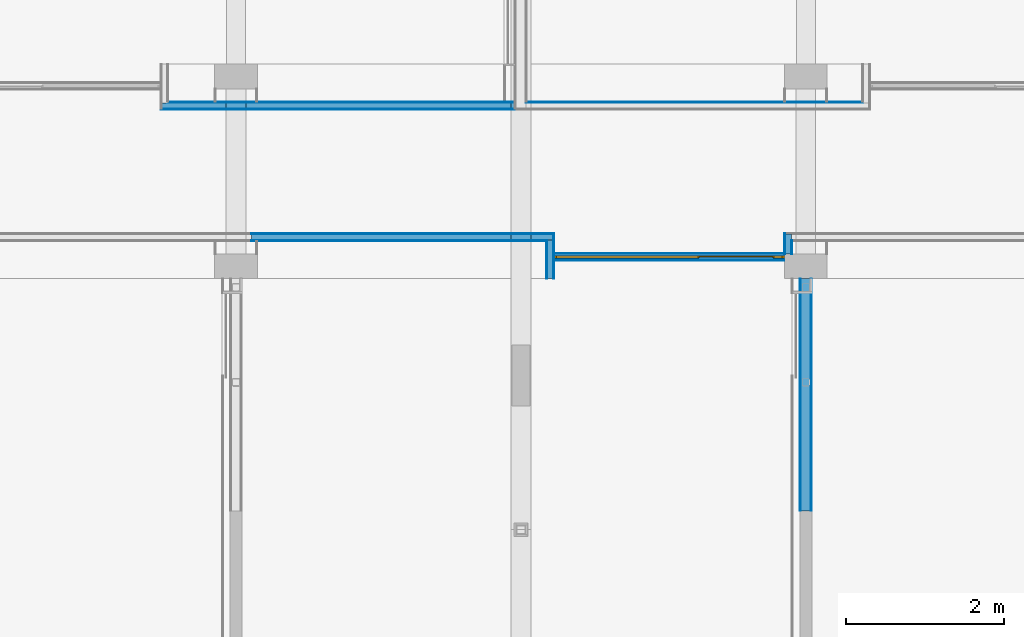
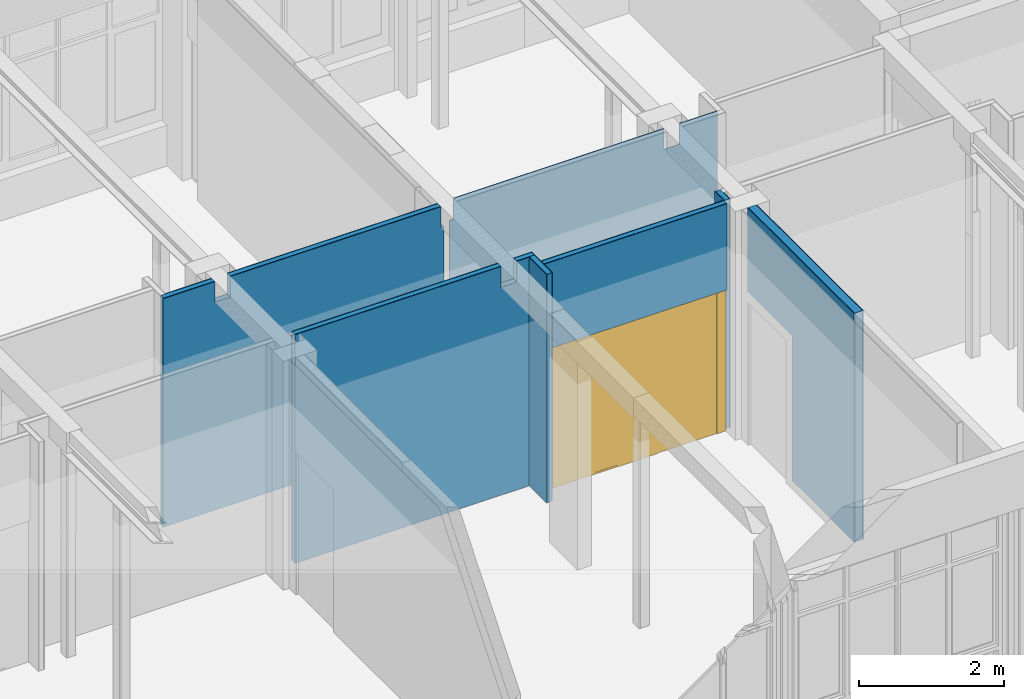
# One storey, part 110 of 135: 19 building element parts, 1 door, 2 openings, 7 elements without a shape of their own.
"""IFC2X3 building model written with IfcOpenShell, lengths in millimetres."""

from ifc_helpers import new_model, entity, si_unit, converted_unit, derived_unit, money_unit, direction, frame, origin_with_axes, place, context, subcontext, project, spatial, open_shell, faceted_brep, surface_model, material, type_object, element, fill, aggregate, save


model = new_model("IFC2X3")

# Units and contexts
model_context = context("Model", 3, precision=0.01, world=origin_with_axes(), true_north=direction((0.0, 1.0)))
body_context = subcontext(model_context, "Body", "Model", "MODEL_VIEW")
ifc_project = project(units=[si_unit("LENGTHUNIT", "METRE", prefix="MILLI"), si_unit("AREAUNIT", "SQUARE_METRE"), si_unit("VOLUMEUNIT", "CUBIC_METRE"), converted_unit("PLANEANGLEUNIT", "DEGREE", entity("IfcPlaneAngleMeasure", 0.0174532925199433), si_unit("PLANEANGLEUNIT", "RADIAN"), dimensions=[0, 0, 0, 0, 0, 0, 0]), money_unit("EUR"), converted_unit("TIMEUNIT", "Year", entity("IfcTimeMeasure", 31557600.0), si_unit("TIMEUNIT", "SECOND"), dimensions=[0, 0, 1, 0, 0, 0, 0]), si_unit("MASSUNIT", "GRAM", prefix="KILO"), si_unit("THERMODYNAMICTEMPERATUREUNIT", "DEGREE_CELSIUS"), si_unit("LUMINOUSINTENSITYUNIT", "LUMEN"), si_unit("ENERGYUNIT", "JOULE", prefix="MEGA"), derived_unit("THERMALCONDUCTANCEUNIT", [(si_unit("POWERUNIT", "WATT"), 1), (si_unit("LENGTHUNIT", "METRE"), -1), (si_unit("THERMODYNAMICTEMPERATUREUNIT", "KELVIN"), -1)]), derived_unit("SPECIFICHEATCAPACITYUNIT", [(si_unit("ENERGYUNIT", "JOULE"), 1), (si_unit("MASSUNIT", "GRAM", prefix="KILO"), -1), (si_unit("THERMODYNAMICTEMPERATUREUNIT", "KELVIN"), -1)]), derived_unit("MASSDENSITYUNIT", [(si_unit("MASSUNIT", "GRAM", prefix="KILO"), 1), (si_unit("VOLUMEUNIT", "CUBIC_METRE"), -1)])], contexts=[model_context])

# Site, building, storey
site_placement = place(None, origin_with_axes())
site = spatial("IfcSite", under=ifc_project, at=site_placement, Name="Site", CompositionType="ELEMENT")
building_placement = place(site_placement, origin_with_axes())
building = spatial("IfcBuilding", under=site, at=building_placement, Name="Naam gebouw", CompositionType="ELEMENT")
storey_placement = place(building_placement, origin_with_axes())
storey = spatial("IfcBuildingStorey", under=building, at=storey_placement, Name="Begane grond N", CompositionType="ELEMENT", Elevation=0.0)

# Door
door_style = type_object("IfcDoorStyle", Name="D1 zl2 27", ConstructionType="NOTDEFINED", OperationType="USERDEFINED", ParameterTakesPrecedence=False, Sizeable=False)
wall_7_placement = place(storey_placement, frame((47220.00000000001, 18145.9124251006, 0.0), z_axis=(0.0, 0.0, 1.0), x_axis=(1.0, 0.0, 0.0)))
opening_2_placement = place(wall_7_placement, frame((1454.999999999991, 0.0, 0.0), z_axis=(0.0, 0.0, 1.0), x_axis=(1.0, 0.0, 0.0)))
door_placement = place(opening_2_placement, frame((1454.999999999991, 0.0, 0.0), z_axis=(0.0, 0.0, 1.0), x_axis=(-1.0, 0.0, 0.0)))
door = element("IfcDoor", 1, at=door_placement, inside=storey, type_object=door_style, Name="_Merk-x", ObjectType="DOOR", OverallHeight=2400.0, OverallWidth=2910.0, context=body_context, shape_type="SurfaceModel", body=[
    faceted_brep([(2909.999999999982, 10.00000000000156, 0.0), (2909.999999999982, -9.99999999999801, 0.0), (2879.999999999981, -9.99999999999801, 0.0), (2879.999999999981, 10.00000000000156, 0.0), (2909.999999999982, 10.00000000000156, 2370.0), (2909.999999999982, -9.99999999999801, 2370.0), (2879.999999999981, -9.99999999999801, 2370.0), (2879.999999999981, -9.99999999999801, 30.0), (2879.999999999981, 10.00000000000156, 30.0), (2879.999999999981, 10.00000000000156, 2370.0)], [[[0, 1, 2, 3]], [[4, 5, 1, 0]], [[1, 5, 6, 7, 2]], [[3, 2, 7, 8]], [[0, 3, 8, 9, 4]], [[9, 6, 5, 4]], [[8, 7, 6, 9]]]),
    faceted_brep([(1060.000000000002, -8.999999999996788, 0.0), (1060.000000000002, -9.99999999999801, 0.0), (1060.000000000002, -9.99999999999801, 2370.0), (1060.000000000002, -8.999999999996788, 2370.0), (1077.000000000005, -8.999999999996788, 0.0), (1077.000000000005, 10.00000000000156, 0.0), (1090.000000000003, 10.00000000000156, 0.0), (1090.000000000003, -9.99999999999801, 0.0), (1090.000000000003, -9.99999999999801, 30.00000000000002), (1090.000000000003, -9.99999999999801, 2370.0), (1077.000000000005, -8.999999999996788, 2370.0), (1090.000000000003, 10.00000000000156, 2370.0), (1077.000000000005, 10.00000000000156, 2370.0), (1090.000000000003, 10.00000000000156, 30.00000000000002)], [[[0, 1, 2, 3]], [[4, 5, 6, 7, 1, 0]], [[7, 8, 9, 2, 1]], [[10, 3, 2, 9, 11, 12]], [[10, 4, 0, 3]], [[12, 5, 4, 10]], [[12, 11, 13, 6, 5]], [[6, 13, 8, 7]], [[13, 11, 9, 8]]]),
    faceted_brep([(2879.999999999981, 10.00000000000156, 30.0), (2879.999999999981, -9.99999999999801, 30.0), (2879.999999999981, -9.99999999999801, 0.0), (2879.999999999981, 10.00000000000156, 0.0), (1090.000000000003, 10.00000000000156, 30.0), (1090.000000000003, -9.99999999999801, 30.0), (1090.000000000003, -9.99999999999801, 0.0), (1090.000000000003, 10.00000000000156, 0.0)], [[[0, 1, 2, 3]], [[4, 5, 1, 0]], [[1, 5, 6, 2]], [[3, 2, 6, 7]], [[0, 3, 7, 4]], [[7, 6, 5, 4]]]),
    faceted_brep([(0.0, 10.00000000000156, 0.0), (0.0, -9.99999999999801, 0.0), (0.0, -9.99999999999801, 2370.0), (0.0, 10.00000000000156, 2370.0), (30.00000000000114, 10.00000000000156, 0.0), (30.00000000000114, -9.99999999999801, 0.0), (30.00000000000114, -9.99999999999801, 30.0), (30.00000000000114, -9.99999999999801, 2370.0), (30.00000000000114, 10.00000000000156, 2370.0), (30.00000000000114, 10.00000000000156, 30.0)], [[[0, 1, 2, 3]], [[4, 5, 1, 0]], [[1, 5, 6, 7, 2]], [[3, 2, 7, 8]], [[0, 3, 8, 9, 4]], [[9, 6, 5, 4]], [[8, 7, 6, 9]]]),
    faceted_brep([(143.0000000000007, -8.999999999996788, 2370.0), (143.0000000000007, 10.00000000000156, 2370.0), (130.0000000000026, 10.00000000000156, 2370.0), (130.0000000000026, -9.99999999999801, 2370.0), (160.0000000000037, -9.99999999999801, 2370.0), (160.0000000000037, -8.999999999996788, 2370.0), (143.0000000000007, -8.999999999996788, 0.0), (143.0000000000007, 10.00000000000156, 0.0), (130.0000000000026, 10.00000000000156, 0.0), (130.0000000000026, 10.00000000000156, 30.00000000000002), (130.0000000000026, -9.99999999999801, 30.00000000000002), (160.0000000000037, -9.99999999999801, 0.0), (130.0000000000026, -9.99999999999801, 0.0), (160.0000000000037, -8.999999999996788, 0.0)], [[[0, 1, 2, 3, 4, 5]], [[0, 6, 7, 1]], [[7, 8, 9, 2, 1]], [[2, 9, 10, 3]], [[11, 4, 3, 10, 12]], [[5, 4, 11, 13]], [[5, 13, 6, 0]], [[6, 13, 11, 12, 8, 7]], [[9, 8, 12, 10]]]),
    faceted_brep([(130.0000000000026, 10.00000000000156, 30.0), (130.0000000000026, -9.99999999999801, 30.0), (130.0000000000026, -9.99999999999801, 0.0), (130.0000000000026, 10.00000000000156, 0.0), (30.00000000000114, 10.00000000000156, 30.0), (30.00000000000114, -9.99999999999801, 30.0), (30.00000000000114, -9.99999999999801, 0.0), (30.00000000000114, 10.00000000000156, 0.0)], [[[0, 1, 2, 3]], [[4, 5, 1, 0]], [[1, 5, 6, 2]], [[3, 2, 6, 7]], [[0, 3, 7, 4]], [[7, 6, 5, 4]]]),
    faceted_brep([(1077.000000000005, 10.00000000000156, 2387.0), (143.0000000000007, 10.00000000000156, 2387.0), (143.0000000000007, 10.00000000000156, 2370.0), (130.0000000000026, 10.00000000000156, 2370.0), (30.00000000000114, 10.00000000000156, 2370.0), (0.0, 10.00000000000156, 2370.0), (0.0, 10.00000000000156, 2400.0), (2909.999999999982, 10.00000000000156, 2400.0), (2909.999999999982, 10.00000000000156, 2370.0), (2879.999999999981, 10.00000000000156, 2370.0), (1090.000000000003, 10.00000000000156, 2370.0), (1077.000000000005, 10.00000000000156, 2370.0), (1077.000000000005, -8.999999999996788, 2387.0), (143.0000000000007, -8.999999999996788, 2387.0), (143.0000000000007, -8.999999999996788, 2370.0), (160.0000000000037, -8.999999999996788, 2370.0), (160.0000000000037, -9.99999999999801, 2370.0), (130.0000000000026, -9.99999999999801, 2370.0), (30.00000000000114, -9.99999999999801, 2370.0), (0.0, -9.99999999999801, 2370.0), (0.0, -9.99999999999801, 2400.0), (2909.999999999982, -9.99999999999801, 2400.0), (2909.999999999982, -9.99999999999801, 2370.0), (2879.999999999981, -9.99999999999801, 2370.0), (1090.000000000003, -9.99999999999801, 2370.0), (1077.000000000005, -8.999999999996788, 2370.0), (1060.000000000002, -9.99999999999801, 2370.0)], [[[0, 1, 2, 3, 4, 5, 6, 7, 8, 9, 10, 11]], [[0, 12, 13, 1]], [[1, 13, 14, 2]], [[14, 15, 16, 17, 18, 4, 3, 2]], [[5, 4, 18, 19]], [[6, 5, 19, 20]], [[7, 6, 20, 21]], [[8, 7, 21, 22]], [[9, 8, 22, 23]], [[10, 9, 23, 24]], [[25, 11, 10, 24, 26, 16, 15]], [[11, 25, 12, 0]], [[14, 13, 12, 25, 15]], [[18, 17, 16, 26, 24, 23, 22, 21, 20, 19]]]),
    faceted_brep([(143.0000000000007, 1.000000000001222, 0.0), (1077.000000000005, 1.000000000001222, 0.0), (1077.000000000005, -8.999999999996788, 0.0), (143.0000000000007, -8.999999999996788, 0.0), (143.0000000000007, 1.000000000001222, 2387.0), (1077.000000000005, 1.000000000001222, 2387.0), (1077.000000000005, -9.000000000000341, 2387.0), (143.0000000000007, -9.000000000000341, 2387.0)], [[[0, 1, 2, 3]], [[0, 4, 5, 1]], [[1, 5, 6, 2]], [[3, 2, 6, 7]], [[4, 0, 3, 7]], [[5, 4, 7, 6]]]),
    surface_model("IfcShellBasedSurfaceModel", [(2879.999999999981, 9.000000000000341, 30.0), (1090.000000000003, 9.000000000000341, 30.0), (1090.000000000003, 9.000000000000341, 2370.0), (2879.999999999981, 9.000000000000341, 2370.0)], [open_shell([[[0, 1, 2, 3]]])]),
    surface_model("IfcShellBasedSurfaceModel", [(2879.999999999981, 1.000000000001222, 30.0), (2879.999999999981, 1.000000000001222, 2370.0), (1090.000000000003, 1.000000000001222, 2370.0), (1090.000000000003, 1.000000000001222, 30.0)], [open_shell([[[0, 1, 2, 3]]])]),
    surface_model("IfcShellBasedSurfaceModel", [(130.0000000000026, 9.000000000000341, 30.0), (30.00000000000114, 9.000000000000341, 30.0), (30.00000000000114, 9.000000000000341, 2370.0), (130.0000000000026, 9.000000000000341, 2370.0)], [open_shell([[[0, 1, 2, 3]]])]),
    surface_model("IfcShellBasedSurfaceModel", [(130.0000000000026, 1.000000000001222, 30.0), (130.0000000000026, 1.000000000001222, 2370.0), (30.00000000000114, 1.000000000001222, 2370.0), (30.00000000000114, 1.000000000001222, 30.0)], [open_shell([[[0, 1, 2, 3]]])]),
])

# Wall, opening, building element parts
wall_type_1 = type_object("IfcWallType", Name="Metalstud iso 150 150", PredefinedType="NOTDEFINED")
wall_1_placement = place(storey_placement, frame((50399.99999999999, 17870.91242510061, 0.0), z_axis=(0.0, 0.0, 1.0), x_axis=(0.0, -1.0, 0.0)))
wall_1 = element("IfcWall", 2, at=wall_1_placement, inside=storey, type_object=wall_type_1, Name="_Wand-x")
opening_1_placement = place(wall_1_placement, frame((612.5000000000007, 0.0, 0.0), z_axis=(0.0, 0.0, 1.0), x_axis=(1.0, 0.0, 0.0)))
element("IfcOpeningElement", 3, at=opening_1_placement, cuts=wall_1, Name="_", context=body_context, shape_type="Brep", body=[
    faceted_brep([(-612.5000000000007, -76.00000000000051, 2440.0), (-612.5000000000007, -76.00000000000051, 0.0), (612.5000000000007, -76.00000000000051, 0.0), (612.5000000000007, -76.00000000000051, 2440.0), (-612.5000000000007, 76.00000000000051, 2440.0), (-612.5000000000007, 76.00000000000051, 0.0), (612.5000000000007, 76.00000000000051, 0.0), (612.5000000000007, 76.00000000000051, 2440.0)], [[[0, 1, 2, 3]], [[4, 5, 1, 0]], [[5, 6, 2, 1]], [[6, 7, 3, 2]], [[7, 4, 0, 3]], [[6, 5, 4, 7]]]),
])
ifc_material_1 = material(Name="Gipsplaat")
building_element_part_1_placement = place(wall_1_placement, origin_with_axes())
building_element_part_1 = element("IfcBuildingElementPart", 4, at=building_element_part_1_placement, material=ifc_material_1, Name="Gipsplaat", context=body_context, shape_type="Brep", body=[
    faceted_brep([(160.0000000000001, 75.00000000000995, 2440.0), (0.0, 75.00000000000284, 2440.0), (0.0, 75.00000000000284, 3850.0), (2934.000000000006, 75.00000000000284, 3850.0), (2934.000000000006, 75.00000000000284, 0.0), (1225.000000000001, 75.00000000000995, 0.0), (1225.000000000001, 75.00000000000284, 2440.0), (184.9999999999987, 75.00000000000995, 2440.0), (0.0, 62.5, 2440.0), (160.0000000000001, 62.5, 2440.0), (0.0, 62.5, 3850.0), (2934.000000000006, 62.5, 3850.0), (2934.000000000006, 62.5, 0.0), (1225.000000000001, 62.5, 0.0), (1225.000000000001, 62.5, 2440.0), (184.9999999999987, 62.5, 2440.0)], [[[0, 1, 2, 3, 4, 5, 6, 7]], [[8, 1, 0, 9]], [[1, 8, 10, 2]], [[2, 10, 11, 3]], [[4, 3, 11, 12]], [[13, 5, 4, 12]], [[6, 5, 13, 14]], [[15, 7, 6, 14]], [[9, 0, 7, 15]], [[8, 9, 15, 14, 13, 12, 11, 10]]]),
])
ifc_material_2 = material(Name="Isolatie - Steenwol LSW")
building_element_part_2_placement = place(wall_1_placement, origin_with_axes())
building_element_part_2 = element("IfcBuildingElementPart", 5, at=building_element_part_2_placement, material=ifc_material_2, Name="Isolatie - Steenwol LSW", context=body_context, shape_type="Brep", body=[
    faceted_brep([(160.0000000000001, 62.5, 2440.0), (0.0, 62.5, 2440.0), (0.0, 62.5, 3850.0), (2934.000000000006, 62.5, 3850.0), (2934.000000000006, 62.5, 0.0), (1225.000000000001, 62.5, 0.0), (1225.000000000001, 62.5, 2440.0), (184.9999999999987, 62.5, 2440.0), (0.0, -62.5, 2440.0), (160.0000000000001, -62.5, 2440.0), (0.0, -62.5, 3850.0), (2934.000000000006, -62.5, 3850.0), (2934.000000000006, -62.5, 0.0), (1225.000000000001, -62.5, 0.0), (1225.000000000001, -62.5, 2440.0), (184.9999999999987, -62.5, 2440.0)], [[[0, 1, 2, 3, 4, 5, 6, 7]], [[8, 1, 0, 9]], [[1, 8, 10, 2]], [[2, 10, 11, 3]], [[4, 3, 11, 12]], [[13, 5, 4, 12]], [[6, 5, 13, 14]], [[15, 7, 6, 14]], [[9, 0, 7, 15]], [[8, 9, 15, 14, 13, 12, 11, 10]]]),
])
building_element_part_3_placement = place(wall_1_placement, origin_with_axes())
building_element_part_3 = element("IfcBuildingElementPart", 6, at=building_element_part_3_placement, material=ifc_material_1, Name="Gipsplaat", context=body_context, shape_type="Brep", body=[
    faceted_brep([(160.0000000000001, -62.5, 2440.0), (0.0, -62.5, 2440.0), (0.0, -62.5, 3850.0), (2934.000000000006, -62.5, 3850.0), (2934.000000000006, -62.5, 0.0), (1225.000000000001, -62.5, 0.0), (1225.000000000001, -62.5, 2440.0), (184.9999999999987, -62.5, 2440.0), (0.0, -75.00000000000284, 2440.0), (160.0000000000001, -75.00000000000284, 2440.0), (0.0, -75.00000000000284, 3850.0), (2934.000000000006, -75.00000000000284, 3850.0), (2934.000000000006, -75.00000000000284, 0.0), (1225.000000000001, -75.00000000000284, 0.0), (1225.000000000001, -75.00000000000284, 2440.0), (184.9999999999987, -75.00000000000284, 2440.0)], [[[0, 1, 2, 3, 4, 5, 6, 7]], [[8, 1, 0, 9]], [[1, 8, 10, 2]], [[2, 10, 11, 3]], [[4, 3, 11, 12]], [[13, 5, 4, 12]], [[6, 5, 13, 14]], [[15, 7, 6, 14]], [[9, 0, 7, 15]], [[8, 9, 15, 14, 13, 12, 11, 10]]]),
])
aggregate(wall_1, [building_element_part_1, building_element_part_2, building_element_part_3])

# Wall, building element parts
wall_type_2 = type_object("IfcWallType", Name="Metalstud iso 100 100", PredefinedType="NOTDEFINED")
wall_2_placement = place(storey_placement, frame((46724.99999168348, 20105.91242510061, 0.0), z_axis=(0.0, 0.0, 1.0), x_axis=(-1.0, 0.0, 0.0)))
wall_2 = element("IfcWall", 7, at=wall_2_placement, inside=storey, type_object=wall_type_2, Name="_Wand-x")
building_element_part_4_placement = place(wall_2_placement, origin_with_axes())
building_element_part_4 = element("IfcBuildingElementPart", 8, at=building_element_part_4_placement, material=ifc_material_1, Name="Gipsplaat", context=body_context, shape_type="Brep", body=[
    faceted_brep([(3649.999991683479, 87.49999999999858, 3499.999996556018), (3399.999991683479, 87.49999999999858, 3499.999996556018), (3399.999991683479, 87.49999999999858, 3850.0), (49.99999168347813, 87.49999999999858, 3850.000195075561), (49.99999168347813, 87.49999999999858, 3500.0), (0.0, 87.49999999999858, 3500.0), (0.0, 87.49999999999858, 0.0), (4477.499991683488, 87.49999999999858, 0.0), (4477.499991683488, 87.49999999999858, 3850.0), (3649.999991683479, 87.49999999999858, 3850.0), (3649.999991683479, 100.0000000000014, 3499.999996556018), (3399.999991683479, 100.0000000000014, 3499.999996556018), (3399.999991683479, 100.0000000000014, 3850.0), (49.99999168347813, 100.0000000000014, 3850.000195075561), (49.99999168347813, 100.0000000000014, 3500.0), (0.0, 100.0000000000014, 3500.0), (0.0, 100.0000000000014, 0.0), (4477.499991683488, 100.0000000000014, 0.0), (4477.499991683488, 100.0000000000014, 3850.0), (3649.999991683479, 100.0000000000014, 3850.0)], [[[0, 1, 2, 3, 4, 5, 6, 7, 8, 9]], [[1, 0, 10, 11]], [[12, 2, 1, 11]], [[2, 12, 13, 3]], [[4, 3, 13, 14]], [[15, 5, 4, 14]], [[5, 15, 16, 6]], [[16, 17, 7, 6]], [[17, 18, 8, 7]], [[19, 9, 8, 18]], [[0, 9, 19, 10]], [[10, 19, 18, 17, 16, 15, 14, 13, 12, 11]]]),
])
building_element_part_5_placement = place(wall_2_placement, origin_with_axes())
building_element_part_5 = element("IfcBuildingElementPart", 9, at=building_element_part_5_placement, material=ifc_material_1, Name="Gipsplaat", context=body_context, shape_type="Brep", body=[
    faceted_brep([(3649.999991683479, 0.0, 3499.999996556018), (3399.999991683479, 0.0, 3499.999996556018), (3399.999991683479, 0.0, 3850.0), (49.99999168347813, 0.0, 3850.000195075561), (49.99999168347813, 0.0, 3500.0), (0.0, 0.0, 3500.0), (0.0, 0.0, 0.0), (4389.999991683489, 0.0, 0.0), (4389.999991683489, 0.0, 3850.0), (3649.999991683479, 0.0, 3850.0), (3649.999991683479, 12.49999999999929, 3499.999996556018), (3399.999991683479, 12.49999999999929, 3499.999996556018), (3399.999991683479, 12.49999999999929, 3850.0), (49.99999168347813, 12.49999999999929, 3850.000195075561), (49.99999168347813, 12.49999999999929, 3500.0), (0.0, 12.49999999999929, 3500.0), (0.0, 12.49999999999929, 0.0), (4389.999991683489, 12.49999999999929, 0.0), (4389.999991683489, 12.49999999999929, 3850.0), (3649.999991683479, 12.49999999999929, 3850.0)], [[[0, 1, 2, 3, 4, 5, 6, 7, 8, 9]], [[1, 0, 10, 11]], [[12, 2, 1, 11]], [[2, 12, 13, 3]], [[4, 3, 13, 14]], [[15, 5, 4, 14]], [[5, 15, 16, 6]], [[16, 17, 7, 6]], [[17, 18, 8, 7]], [[19, 9, 8, 18]], [[0, 9, 19, 10]], [[10, 19, 18, 17, 16, 15, 14, 13, 12, 11]]]),
])

# Wall, building element part
wall_3_placement = place(storey_placement, frame((46800.00000000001, 20105.91242510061, 0.0), z_axis=(0.0, 0.0, 1.0), x_axis=(1.0, 0.0, 0.0)))
wall_3 = element("IfcWall", 10, at=wall_3_placement, inside=storey, type_object=wall_type_2, Name="_Wand-x")
building_element_part_6_placement = place(wall_3_placement, origin_with_axes())
building_element_part_6 = element("IfcBuildingElementPart", 11, at=building_element_part_6_placement, material=ifc_material_1, Name="Gipsplaat", context=body_context, shape_type="Brep", body=[
    faceted_brep([(3474.999999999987, 0.0, 3499.999996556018), (3724.999999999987, 0.0, 3499.999996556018), (3724.999999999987, 0.0, 3850.0), (4327.500000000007, 0.0, 3850.0), (4327.500000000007, 0.0, 0.0), (62.5, 0.0, 0.0), (62.5, 0.0, 3500.0), (124.9999999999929, 0.0, 3500.0), (124.9999999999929, 0.0, 3850.000195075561), (3474.999999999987, 0.0, 3850.0), (3474.999999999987, -12.49999999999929, 3499.999996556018), (3724.999999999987, -12.49999999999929, 3499.999996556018), (3724.999999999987, -12.49999999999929, 3850.0), (4327.500000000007, -12.49999999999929, 3850.0), (4327.500000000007, -12.49999999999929, 0.0), (62.5, -12.49999999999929, 0.0), (62.5, -12.49999999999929, 3500.0), (124.9999999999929, -12.49999999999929, 3500.0), (124.9999999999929, -12.49999999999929, 3850.000195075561), (3474.999999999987, -12.49999999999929, 3850.0)], [[[0, 1, 2, 3, 4, 5, 6, 7, 8, 9]], [[1, 0, 10, 11]], [[12, 2, 1, 11]], [[2, 12, 13, 3]], [[4, 3, 13, 14]], [[5, 4, 14, 15]], [[16, 6, 5, 15]], [[7, 6, 16, 17]], [[18, 8, 7, 17]], [[19, 9, 8, 18]], [[0, 9, 19, 10]], [[10, 19, 18, 17, 16, 15, 14, 13, 12, 11]]]),
])
aggregate(wall_3, [building_element_part_6])

# Building element part
building_element_part_7_placement = place(wall_2_placement, origin_with_axes())
building_element_part_7 = element("IfcBuildingElementPart", 12, at=building_element_part_7_placement, material=ifc_material_2, Name="Isolatie - Steenwol LSW", context=body_context, shape_type="Brep", body=[
    faceted_brep([(3649.999991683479, 12.49999999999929, 3499.999996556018), (3399.999991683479, 12.49999999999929, 3499.999996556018), (3399.999991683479, 12.49999999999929, 3850.0), (49.99999168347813, 12.49999999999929, 3850.000195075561), (49.99999168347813, 12.49999999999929, 3500.0), (0.0, 12.49999999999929, 3500.0), (0.0, 12.49999999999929, 0.0), (4464.999991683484, 12.49999999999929, 0.0), (4464.999991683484, 12.49999999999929, 3850.0), (3649.999991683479, 12.49999999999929, 3850.0), (3649.999991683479, 87.49999999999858, 3499.999996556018), (3399.999991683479, 87.49999999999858, 3499.999996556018), (3399.999991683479, 87.49999999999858, 3850.0), (49.99999168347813, 87.49999999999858, 3850.000195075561), (49.99999168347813, 87.49999999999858, 3500.0), (0.0, 87.49999999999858, 3500.0), (0.0, 87.49999999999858, 0.0), (4464.999991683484, 87.49999999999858, 0.0), (4464.999991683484, 87.49999999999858, 3850.0), (3649.999991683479, 87.49999999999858, 3850.0)], [[[0, 1, 2, 3, 4, 5, 6, 7, 8, 9]], [[1, 0, 10, 11]], [[12, 2, 1, 11]], [[2, 12, 13, 3]], [[4, 3, 13, 14]], [[15, 5, 4, 14]], [[5, 15, 16, 6]], [[16, 17, 7, 6]], [[17, 18, 8, 7]], [[19, 9, 8, 18]], [[0, 9, 19, 10]], [[10, 19, 18, 17, 16, 15, 14, 13, 12, 11]]]),
])

aggregate(wall_2, [building_element_part_4, building_element_part_5, building_element_part_7])

# Wall, building element parts
wall_4_placement = place(storey_placement, frame((50229.99999999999, 17870.91242510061, 0.0), z_axis=(0.0, 0.0, 1.0), x_axis=(0.0, 1.0, 0.0)))
wall_4 = element("IfcWall", 13, at=wall_4_placement, inside=storey, type_object=wall_type_2, Name="_Wand-x")
building_element_part_8_placement = place(wall_4_placement, origin_with_axes())
building_element_part_8 = element("IfcBuildingElementPart", 14, at=building_element_part_8_placement, material=ifc_material_1, Name="Gipsplaat", context=body_context, shape_type="Brep", body=[
    faceted_brep([(310.0000000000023, 100.0000000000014, 3850.0), (310.0000000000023, 87.49999999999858, 3850.0), (574.9999999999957, 87.49999999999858, 3850.0), (574.9999999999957, 100.0000000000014, 3850.0), (310.0000000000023, 87.49999999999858, 0.0), (310.0000000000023, 100.0000000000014, 0.0), (574.9999999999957, 87.49999999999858, 0.0), (574.9999999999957, 100.0000000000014, 0.0)], [[[0, 1, 2, 3]], [[4, 1, 0, 5]], [[1, 4, 6, 2]], [[7, 3, 2, 6]], [[5, 0, 3, 7]], [[4, 5, 7, 6]]]),
])
building_element_part_9_placement = place(wall_4_placement, origin_with_axes())
building_element_part_9 = element("IfcBuildingElementPart", 15, at=building_element_part_9_placement, material=ifc_material_2, Name="Isolatie - Steenwol LSW", context=body_context, shape_type="Brep", body=[
    faceted_brep([(310.0000000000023, 87.49999999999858, 3850.0), (310.0000000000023, 12.50000000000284, 3850.0), (562.499999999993, 12.50000000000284, 3850.0), (562.499999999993, 87.49999999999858, 3850.0), (310.0000000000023, 12.50000000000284, 0.0), (310.0000000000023, 87.49999999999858, 0.0), (562.499999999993, 12.50000000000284, 0.0), (562.499999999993, 87.49999999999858, 0.0)], [[[0, 1, 2, 3]], [[4, 1, 0, 5]], [[1, 4, 6, 2]], [[7, 3, 2, 6]], [[5, 0, 3, 7]], [[4, 5, 7, 6]]]),
])
building_element_part_10_placement = place(wall_4_placement, origin_with_axes())
building_element_part_10 = element("IfcBuildingElementPart", 16, at=building_element_part_10_placement, material=ifc_material_1, Name="Gipsplaat", context=body_context, shape_type="Brep", body=[
    faceted_brep([(310.0000000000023, 12.50000000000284, 3850.0), (310.0000000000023, 0.0, 3850.0), (487.4999999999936, 0.0, 3850.0), (487.4999999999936, 12.50000000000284, 3850.0), (310.0000000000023, 0.0, 0.0), (310.0000000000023, 12.50000000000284, 0.0), (487.4999999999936, 0.0, 0.0), (487.4999999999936, 12.50000000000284, 0.0)], [[[0, 1, 2, 3]], [[4, 1, 0, 5]], [[1, 4, 6, 2]], [[7, 3, 2, 6]], [[5, 0, 3, 7]], [[4, 5, 7, 6]]]),
])
aggregate(wall_4, [building_element_part_8, building_element_part_9, building_element_part_10])

wall_5_placement = place(storey_placement, frame((43395.0, 18345.9124251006, 0.0), z_axis=(0.0, 0.0, 1.0), x_axis=(1.0, 0.0, 0.0)))
wall_5 = element("IfcWall", 17, at=wall_5_placement, inside=storey, type_object=wall_type_2, Name="_Wand-x")
building_element_part_11_placement = place(wall_5_placement, origin_with_axes())
building_element_part_11 = element("IfcBuildingElementPart", 18, at=building_element_part_11_placement, material=ifc_material_1, Name="Gipsplaat", context=body_context, shape_type="Brep", body=[
    faceted_brep([(3280.000000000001, 100.000000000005, 3500.0), (3530.000000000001, 100.000000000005, 3500.0), (3530.000000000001, 100.000000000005, 3850.000195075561), (3825.000000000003, 100.000000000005, 3850.0), (3825.000000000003, 100.000000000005, 0.0), (0.0, 100.0000000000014, 0.0), (0.0, 100.0000000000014, 3850.0), (3280.000000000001, 100.000000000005, 3850.000195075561), (3280.000000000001, 87.50000000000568, 3500.0), (3530.000000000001, 87.50000000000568, 3500.0), (3530.000000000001, 87.50000000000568, 3850.000195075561), (3825.000000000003, 87.50000000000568, 3850.0), (3825.000000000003, 87.50000000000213, 0.0), (0.0, 87.49999999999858, 0.0), (0.0, 87.49999999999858, 3850.0), (3280.000000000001, 87.50000000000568, 3850.000195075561)], [[[0, 1, 2, 3, 4, 5, 6, 7]], [[1, 0, 8, 9]], [[10, 2, 1, 9]], [[2, 10, 11, 3]], [[4, 3, 11, 12]], [[5, 4, 12, 13]], [[13, 14, 6, 5]], [[15, 7, 6, 14]], [[0, 7, 15, 8]], [[8, 15, 14, 13, 12, 11, 10, 9]]]),
])
building_element_part_12_placement = place(wall_5_placement, origin_with_axes())
building_element_part_12 = element("IfcBuildingElementPart", 19, at=building_element_part_12_placement, material=ifc_material_2, Name="Isolatie - Steenwol LSW", context=body_context, shape_type="Brep", body=[
    faceted_brep([(3280.000000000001, 87.50000000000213, 3500.0), (3530.000000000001, 87.50000000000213, 3500.0), (3530.000000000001, 87.50000000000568, 3850.000195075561), (3812.5, 87.50000000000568, 3850.0), (3812.5, 87.50000000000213, 0.0), (0.0, 87.49999999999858, 0.0), (0.0, 87.49999999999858, 3850.0), (3280.000000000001, 87.50000000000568, 3850.000195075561), (3280.000000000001, 12.50000000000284, 3500.0), (3530.000000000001, 12.50000000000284, 3500.0), (3530.000000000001, 12.50000000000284, 3850.000195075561), (3812.5, 12.50000000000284, 3850.0), (3812.5, 12.50000000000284, 0.0), (0.0, 12.49999999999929, 0.0), (0.0, 12.49999999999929, 3850.0), (3280.000000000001, 12.50000000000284, 3850.000195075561)], [[[0, 1, 2, 3, 4, 5, 6, 7]], [[1, 0, 8, 9]], [[10, 2, 1, 9]], [[2, 10, 11, 3]], [[4, 3, 11, 12]], [[5, 4, 12, 13]], [[13, 14, 6, 5]], [[15, 7, 6, 14]], [[0, 7, 15, 8]], [[8, 15, 14, 13, 12, 11, 10, 9]]]),
])

# Wall, building element part
wall_6_placement = place(storey_placement, frame((47120.00000000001, 17870.91242510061, 0.0), z_axis=(0.0, 0.0, 1.0), x_axis=(0.0, 1.0, 0.0)))
wall_6 = element("IfcWall", 20, at=wall_6_placement, inside=storey, type_object=wall_type_2, Name="_Wand-x")
building_element_part_13_placement = place(wall_6_placement, origin_with_axes())
building_element_part_13 = element("IfcBuildingElementPart", 21, at=building_element_part_13_placement, material=ifc_material_1, Name="Gipsplaat", context=body_context, shape_type="Brep", body=[
    faceted_brep([(474.9999999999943, 0.0, 3850.0), (474.9999999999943, -12.50000000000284, 3850.0), (474.9999999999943, -12.50000000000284, 0.0), (474.9999999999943, 0.0, 0.0), (0.0, -12.50000000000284, 3850.0), (0.0, 0.0, 3850.0), (0.0, -12.50000000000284, 0.0), (0.0, 0.0, 0.0)], [[[0, 1, 2, 3]], [[4, 1, 0, 5]], [[1, 4, 6, 2]], [[3, 2, 6, 7]], [[5, 0, 3, 7]], [[4, 5, 7, 6]]]),
])

# Building element part
building_element_part_14_placement = place(wall_5_placement, origin_with_axes())
building_element_part_14 = element("IfcBuildingElementPart", 22, at=building_element_part_14_placement, material=ifc_material_1, Name="Gipsplaat", context=body_context, shape_type="Brep", body=[
    faceted_brep([(3280.000000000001, 12.50000000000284, 3500.0), (3530.000000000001, 12.50000000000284, 3500.0), (3530.000000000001, 12.50000000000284, 3850.000195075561), (3737.500000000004, 12.50000000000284, 3850.0), (3737.500000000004, 12.50000000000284, 0.0), (0.0, 12.49999999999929, 0.0), (0.0, 12.49999999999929, 3850.0), (3280.000000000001, 12.50000000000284, 3850.000195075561), (3280.000000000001, 0.0, 3500.0), (3530.000000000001, 0.0, 3500.0), (3530.000000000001, 0.0, 3850.000195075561), (3737.500000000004, 0.0, 3850.0), (3737.500000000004, 0.0, 0.0), (0.0, 0.0, 0.0), (0.0, 0.0, 3850.0), (3280.000000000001, 0.0, 3850.000195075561)], [[[0, 1, 2, 3, 4, 5, 6, 7]], [[1, 0, 8, 9]], [[10, 2, 1, 9]], [[2, 10, 11, 3]], [[4, 3, 11, 12]], [[5, 4, 12, 13]], [[13, 14, 6, 5]], [[15, 7, 6, 14]], [[0, 7, 15, 8]], [[8, 15, 14, 13, 12, 11, 10, 9]]]),
])

aggregate(wall_5, [building_element_part_11, building_element_part_12, building_element_part_14])

building_element_part_15_placement = place(wall_6_placement, origin_with_axes())
building_element_part_15 = element("IfcBuildingElementPart", 23, at=building_element_part_15_placement, material=ifc_material_2, Name="Isolatie - Steenwol LSW", context=body_context, shape_type="Brep", body=[
    faceted_brep([(487.4999999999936, -12.50000000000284, 3850.0), (487.4999999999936, -87.49999999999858, 3850.0), (487.4999999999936, -87.49999999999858, 0.0), (487.4999999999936, -12.50000000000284, 0.0), (0.0, -87.49999999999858, 3850.0), (0.0, -12.50000000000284, 3850.0), (0.0, -87.49999999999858, 0.0), (0.0, -12.50000000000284, 0.0)], [[[0, 1, 2, 3]], [[4, 1, 0, 5]], [[1, 4, 6, 2]], [[3, 2, 6, 7]], [[5, 0, 3, 7]], [[4, 5, 7, 6]]]),
])

building_element_part_16_placement = place(wall_6_placement, origin_with_axes())
building_element_part_16 = element("IfcBuildingElementPart", 24, at=building_element_part_16_placement, material=ifc_material_1, Name="Gipsplaat", context=body_context, shape_type="Brep", body=[
    faceted_brep([(562.499999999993, -87.49999999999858, 3850.0), (562.499999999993, -100.0000000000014, 3850.0), (562.499999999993, -100.0000000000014, 0.0), (562.499999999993, -87.49999999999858, 0.0), (0.0, -100.0000000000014, 3850.0), (0.0, -87.49999999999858, 3850.0), (0.0, -100.0000000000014, 0.0), (0.0, -87.49999999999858, 0.0)], [[[0, 1, 2, 3]], [[4, 1, 0, 5]], [[1, 4, 6, 2]], [[3, 2, 6, 7]], [[5, 0, 3, 7]], [[4, 5, 7, 6]]]),
])

aggregate(wall_6, [building_element_part_13, building_element_part_15, building_element_part_16])

# Wall, opening
wall_7 = element("IfcWall", 25, at=wall_7_placement, inside=storey, type_object=wall_type_2, Name="_Wand-x")
opening_2 = element("IfcOpeningElement", 26, at=opening_2_placement, cuts=wall_7, Name="_Merk-x", context=body_context, shape_type="Brep", body=[
    faceted_brep([(1454.999999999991, -10.00000000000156, 0.0), (1454.999999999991, -10.00000000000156, 2400.0), (1454.999999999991, -51.00000000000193, 2400.0), (1454.999999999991, -51.00000000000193, 0.0), (1454.999999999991, 51.00000000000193, 0.0), (1454.999999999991, 51.00000000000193, 2400.0), (-1454.999999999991, -10.00000000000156, 2400.0), (-1454.999999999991, -51.00000000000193, 2400.0), (-1454.999999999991, 51.00000000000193, 2400.0), (-1454.999999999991, -51.00000000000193, 0.0), (-1454.999999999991, -10.00000000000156, 0.0), (-1454.999999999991, 51.00000000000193, 0.0)], [[[0, 1, 2, 3]], [[1, 0, 4, 5]], [[6, 7, 2, 1, 5, 8]], [[7, 9, 3, 2]], [[0, 3, 9, 10, 11, 4]], [[5, 4, 11, 8]], [[6, 10, 9, 7]], [[10, 6, 8, 11]]]),
])

fill(opening_2, door)

# Building element part
building_element_part_17_placement = place(wall_7_placement, origin_with_axes())
building_element_part_17 = element("IfcBuildingElementPart", 27, at=building_element_part_17_placement, material=ifc_material_1, Name="Gipsplaat", context=body_context, shape_type="Brep", body=[
    faceted_brep([(2909.999999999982, 37.50000000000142, 2400.0), (2909.999999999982, 50.00000000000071, 2400.0), (2909.999999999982, 50.00000000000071, 3850.0), (2909.999999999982, 37.50000000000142, 3850.0), (0.0, 50.00000000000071, 2400.0), (0.0, 37.50000000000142, 2400.0), (0.0, 50.00000000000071, 3850.0), (0.0, 37.50000000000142, 3850.0)], [[[0, 1, 2, 3]], [[4, 1, 0, 5]], [[1, 4, 6, 2]], [[2, 6, 7, 3]], [[5, 0, 3, 7]], [[4, 5, 7, 6]]]),
])

building_element_part_18_placement = place(wall_7_placement, origin_with_axes())
building_element_part_18 = element("IfcBuildingElementPart", 28, at=building_element_part_18_placement, material=ifc_material_1, Name="Gipsplaat", context=body_context, shape_type="Brep", body=[
    faceted_brep([(2909.999999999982, -50.00000000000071, 2400.0), (2909.999999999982, -37.49999999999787, 2400.0), (2909.999999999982, -37.49999999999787, 3850.0), (2909.999999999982, -50.00000000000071, 3850.0), (0.0, -37.50000000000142, 2400.0), (0.0, -50.00000000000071, 2400.0), (0.0, -37.50000000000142, 3850.0), (0.0, -50.00000000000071, 3850.0)], [[[0, 1, 2, 3]], [[4, 1, 0, 5]], [[1, 4, 6, 2]], [[3, 2, 6, 7]], [[5, 0, 3, 7]], [[4, 5, 7, 6]]]),
])

building_element_part_19_placement = place(wall_7_placement, origin_with_axes())
building_element_part_19 = element("IfcBuildingElementPart", 29, at=building_element_part_19_placement, material=ifc_material_2, Name="Isolatie - Steenwol LSW", context=body_context, shape_type="Brep", body=[
    faceted_brep([(2909.999999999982, -10.00000000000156, 2400.0), (2909.999999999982, 37.50000000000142, 2400.0), (2909.999999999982, 37.50000000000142, 3850.0), (2909.999999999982, -37.49999999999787, 3850.0), (2909.999999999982, -37.49999999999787, 2400.0), (0.0, -10.00000000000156, 2400.0), (0.0, 37.50000000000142, 2400.0), (0.0, -37.50000000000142, 2400.0), (0.0, 37.50000000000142, 3850.0), (0.0, -37.50000000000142, 3850.0)], [[[0, 1, 2, 3, 4]], [[5, 6, 1, 0, 4, 7]], [[1, 6, 8, 2]], [[2, 8, 9, 3]], [[4, 3, 9, 7]], [[6, 5, 7, 9, 8]]]),
])

aggregate(wall_7, [building_element_part_17, building_element_part_18, building_element_part_19])

save(model, "model.ifc")
